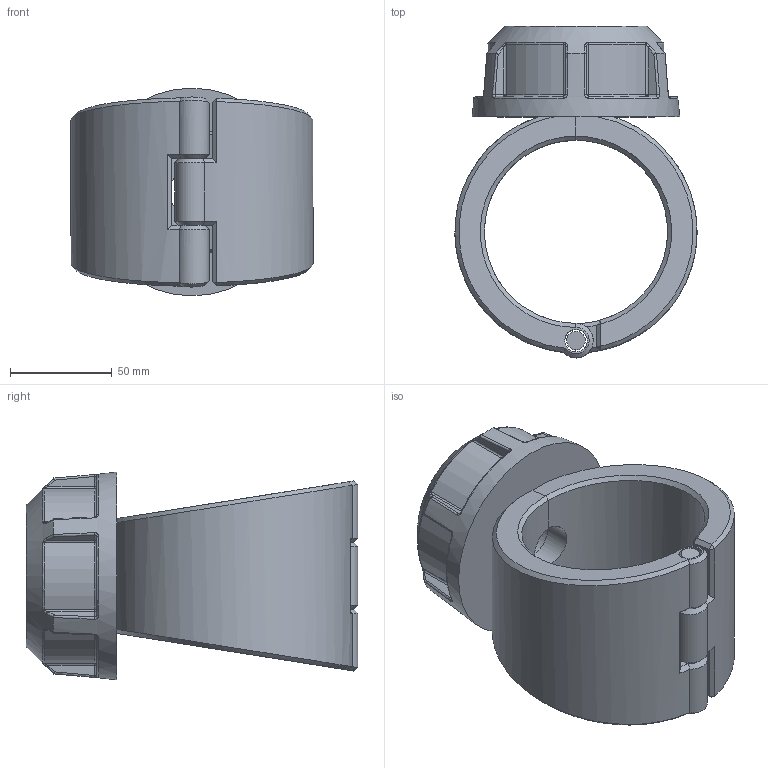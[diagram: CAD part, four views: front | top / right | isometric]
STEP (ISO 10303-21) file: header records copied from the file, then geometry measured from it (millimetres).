
FILE_DESCRIPTION(/* description */ ('Plassadle Threaded 90x1 1/2'''''),/* implementation_level */ '2;1');
FILE_NAME(/* name */ 'C:\Users\comp2\Dropbox\99-16-3568-Processing\Mechanical Fittings\16300\stp\163000090015.stp',/* time_stamp */ '2022-02-03T11:47:30+00:00',/* author */ ('comp2'),/* organization */ (''),/* preprocessor_version */ 'ST-DEVELOPER v17.2',/* originating_system */ 'Autodesk Inventor 2019',/* authorisation */ '');
FILE_SCHEMA (('AUTOMOTIVE_DESIGN { 1 0 10303 214 3 1 1 }'));
Length unit declared in the file: millimetre
Products named in the file (1): 163000090015
Bounding box: 118.98 x 163 x 102 mm (x, y, z)
Volume: 563104.2 mm3; surface area: 98040.1 mm2
Topology: 4 solids, 4 shells, 203 faces, 486 edges, 293 vertices
Faces by surface type: bspline 58, plane 53, cylinder 47, torus 18, cone 15, sphere 12
Full cylindrical faces by diameter (mm): 9.08 x1, 11.08 x3, 22.422 x1, 38.118 x1, 44.845 x1, 67.267 x1
Entity records: 8276 total; most frequent: CARTESIAN_POINT 3929, ORIENTED_EDGE 972, DIRECTION 781, EDGE_CURVE 486, AXIS2_PLACEMENT_3D 330, VERTEX_POINT 293, EDGE_LOOP 213, FACE_OUTER_BOUND 203
